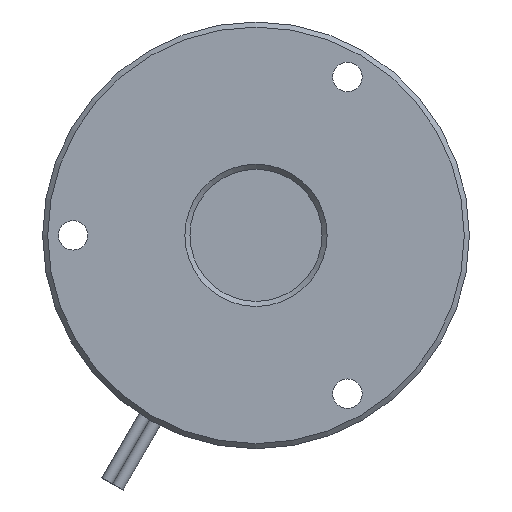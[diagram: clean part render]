
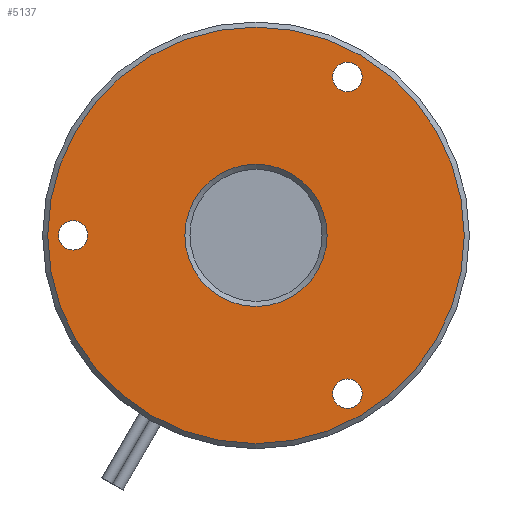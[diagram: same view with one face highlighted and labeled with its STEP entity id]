
A CAD part, left-side view. The second image highlights one B-rep face of the part: STEP entity #5137.
In plain terms, the highlighted planar face has unit normal (-1, 0, 0).
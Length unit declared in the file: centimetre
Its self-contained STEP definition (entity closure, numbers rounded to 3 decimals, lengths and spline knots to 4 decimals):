
#815=FACE_BOUND($,#1632,.T.);
#816=FACE_BOUND($,#1633,.T.);
#817=FACE_BOUND($,#1634,.T.);
#818=FACE_BOUND($,#1635,.T.);
#819=FACE_BOUND($,#1636,.T.);
#1632=EDGE_LOOP($,(#3618));
#1633=EDGE_LOOP($,(#3619));
#1634=EDGE_LOOP($,(#3620));
#1635=EDGE_LOOP($,(#3621));
#1636=EDGE_LOOP($,(#3622));
#2049=CIRCLE($,#5491,0.7);
#2050=CIRCLE($,#5492,2.05);
#2051=CIRCLE($,#5493,0.145);
#2052=CIRCLE($,#5494,0.145);
#2053=CIRCLE($,#5495,0.145);
#2372=VERTEX_POINT($,#7631);
#2373=VERTEX_POINT($,#7633);
#2374=VERTEX_POINT($,#7635);
#2375=VERTEX_POINT($,#7637);
#2376=VERTEX_POINT($,#7639);
#2874=EDGE_CURVE($,#2372,#2372,#2049,.T.);
#2875=EDGE_CURVE($,#2373,#2373,#2050,.T.);
#2876=EDGE_CURVE($,#2374,#2374,#2051,.T.);
#2877=EDGE_CURVE($,#2375,#2375,#2052,.T.);
#2878=EDGE_CURVE($,#2376,#2376,#2053,.T.);
#3618=ORIENTED_EDGE($,*,*,#2874,.F.);
#3619=ORIENTED_EDGE($,*,*,#2875,.F.);
#3620=ORIENTED_EDGE($,*,*,#2876,.T.);
#3621=ORIENTED_EDGE($,*,*,#2877,.T.);
#3622=ORIENTED_EDGE($,*,*,#2878,.T.);
#5016=PLANE($,#5490);
#5137=ADVANCED_FACE($,(#815,#816,#817,#818,#819),#5016,.F.);
#5490=AXIS2_PLACEMENT_3D($,#7630,#6159,#6160);
#5491=AXIS2_PLACEMENT_3D($,#7632,#6161,#6162);
#5492=AXIS2_PLACEMENT_3D($,#7634,#6163,#6164);
#5493=AXIS2_PLACEMENT_3D($,#7636,#6165,#6166);
#5494=AXIS2_PLACEMENT_3D($,#7638,#6167,#6168);
#5495=AXIS2_PLACEMENT_3D($,#7640,#6169,#6170);
#6159=DIRECTION('center_axis',(1.,0.,0.));
#6160=DIRECTION('ref_axis',(0.,0.,-1.));
#6161=DIRECTION('center_axis',(-1.,0.,0.));
#6162=DIRECTION('ref_axis',(0.,0.5,-0.866));
#6163=DIRECTION('center_axis',(1.,0.,0.));
#6164=DIRECTION('ref_axis',(0.,0.5,-0.866));
#6165=DIRECTION('center_axis',(1.,0.,0.));
#6166=DIRECTION('ref_axis',(0.,0.866,0.5));
#6167=DIRECTION('center_axis',(1.,0.,0.));
#6168=DIRECTION('ref_axis',(0.,-0.866,0.5));
#6169=DIRECTION('center_axis',(1.,0.,0.));
#6170=DIRECTION('ref_axis',(0.,0.,
-1.));
#7630=CARTESIAN_POINT('Origin',(0.,1.8541,
0.));
#7631=CARTESIAN_POINT('',(0.,0.3041,0.6062));
#7632=CARTESIAN_POINT('Origin',(0.,0.6541,
0.));
#7633=CARTESIAN_POINT('',(0.,-0.3709,1.7754));
#7634=CARTESIAN_POINT('Origin',(0.,0.6541,
0.));
#7635=CARTESIAN_POINT('',(0.,-0.3715,1.4863));
#7636=CARTESIAN_POINT('Origin',(0.,-0.2459,
1.5588));
#7637=CARTESIAN_POINT('',(0.,-0.1204,-1.6313));
#7638=CARTESIAN_POINT('Origin',(0.,-0.2459,
-1.5588));
#7639=CARTESIAN_POINT('',(0.,2.4541,0.145));
#7640=CARTESIAN_POINT('Origin',(0.,2.4541,
0.));
